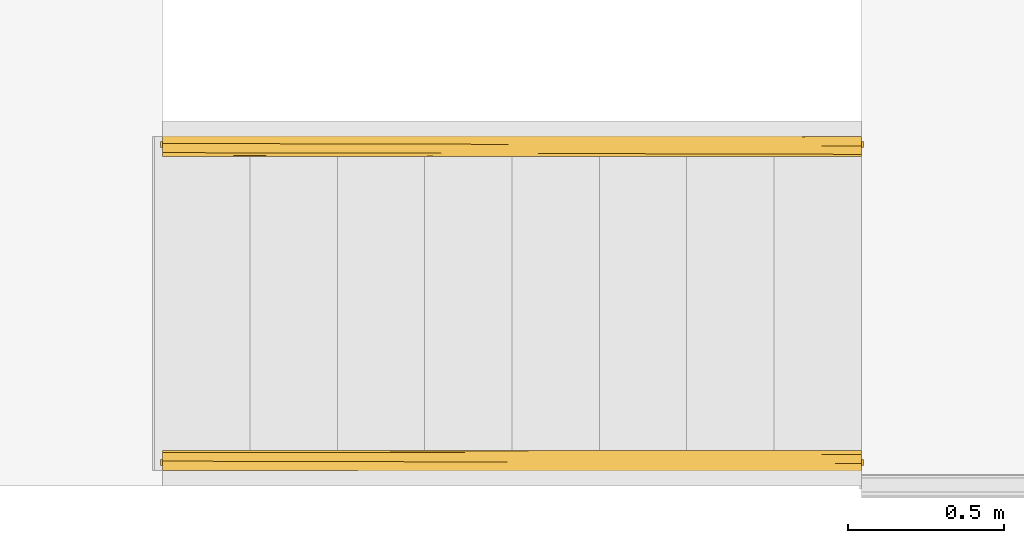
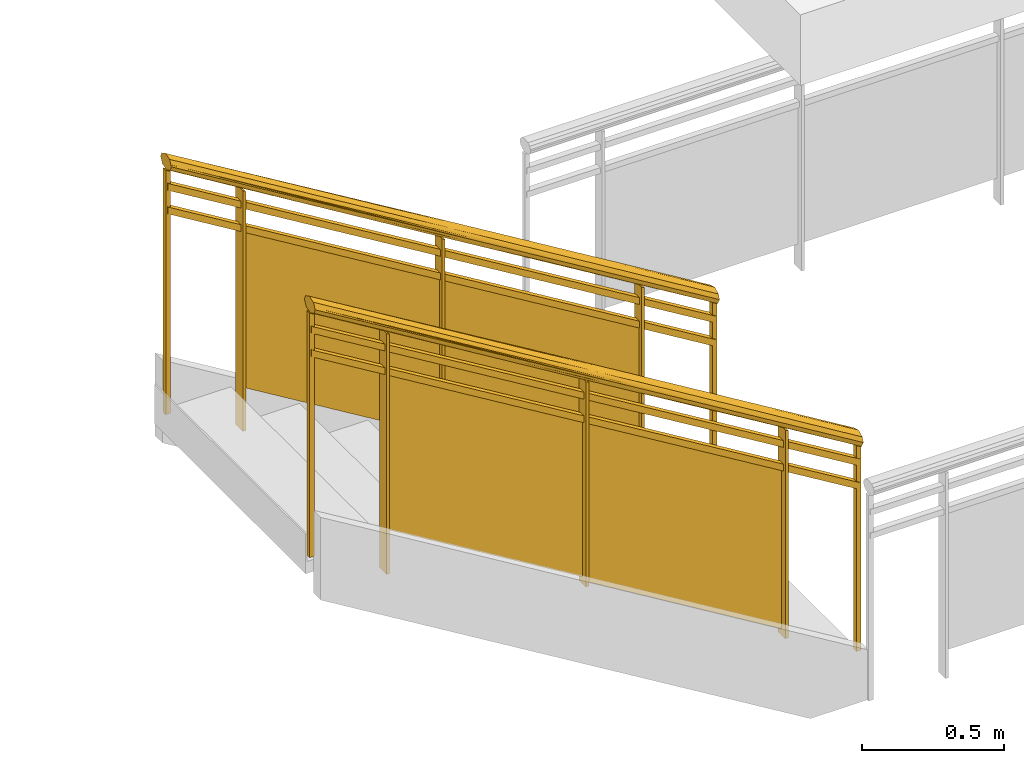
# One storey, part 3 of 4: 2 railings, 1 element without a shape of its own.
"""IFC2X3 building model written with IfcOpenShell, lengths in feet."""

from ifc_helpers import new_model, entity, si_unit, converted_unit, derived_unit, direction, frame, origin, place, context, subcontext, project, spatial, faceted_brep, material, material_list, element, aggregate, save


model = new_model("IFC2X3")

# Units and contexts
model_context = context("Model", 3, precision=0.0001, world=origin(), true_north=direction((6.12303176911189e-17, 1.0)))
body_context = subcontext(model_context, "Body", "Model", "MODEL_VIEW")
ifc_project = project(units=[converted_unit("LENGTHUNIT", "FOOT", entity("IfcRatioMeasure", 0.3048), si_unit("LENGTHUNIT", "METRE"), dimensions=[1, 0, 0, 0, 0, 0, 0]), converted_unit("AREAUNIT", "SQUARE FOOT", entity("IfcRatioMeasure", 0.09290304), si_unit("AREAUNIT", "SQUARE_METRE"), dimensions=[2, 0, 0, 0, 0, 0, 0]), converted_unit("VOLUMEUNIT", "CUBIC FOOT", entity("IfcRatioMeasure", 0.028316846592), si_unit("VOLUMEUNIT", "CUBIC_METRE"), dimensions=[3, 0, 0, 0, 0, 0, 0]), converted_unit("PLANEANGLEUNIT", "DEGREE", entity("IfcRatioMeasure", 0.0174532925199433), si_unit("PLANEANGLEUNIT", "RADIAN"), dimensions=[0, 0, 0, 0, 0, 0, 0]), si_unit("MASSUNIT", "GRAM", prefix="KILO"), derived_unit("MASSDENSITYUNIT", [(si_unit("MASSUNIT", "GRAM", prefix="KILO"), 1), (si_unit("LENGTHUNIT", "METRE"), -3)]), si_unit("TIMEUNIT", "SECOND"), si_unit("FREQUENCYUNIT", "HERTZ"), si_unit("THERMODYNAMICTEMPERATUREUNIT", "DEGREE_CELSIUS"), derived_unit("THERMALTRANSMITTANCEUNIT", [(si_unit("MASSUNIT", "GRAM", prefix="KILO"), 1), (si_unit("THERMODYNAMICTEMPERATUREUNIT", "KELVIN"), -1), (si_unit("TIMEUNIT", "SECOND"), -3)]), derived_unit("VOLUMETRICFLOWRATEUNIT", [(si_unit("LENGTHUNIT", "METRE"), 3), (si_unit("TIMEUNIT", "SECOND"), -1)]), si_unit("ELECTRICCURRENTUNIT", "AMPERE"), si_unit("ELECTRICVOLTAGEUNIT", "VOLT"), si_unit("POWERUNIT", "WATT"), si_unit("FORCEUNIT", "NEWTON"), si_unit("ILLUMINANCEUNIT", "LUX"), si_unit("LUMINOUSFLUXUNIT", "LUMEN"), si_unit("LUMINOUSINTENSITYUNIT", "CANDELA"), derived_unit("USERDEFINED", [(si_unit("MASSUNIT", "GRAM", prefix="KILO"), -1), (si_unit("LENGTHUNIT", "METRE"), -2), (si_unit("TIMEUNIT", "SECOND"), 3), (si_unit("LUMINOUSFLUXUNIT", "LUMEN"), 1)]), derived_unit("LINEARVELOCITYUNIT", [(si_unit("LENGTHUNIT", "METRE"), 1), (si_unit("TIMEUNIT", "SECOND"), -1)]), si_unit("PRESSUREUNIT", "PASCAL"), derived_unit("USERDEFINED", [(si_unit("LENGTHUNIT", "METRE"), -2), (si_unit("MASSUNIT", "GRAM", prefix="KILO"), 1), (si_unit("TIMEUNIT", "SECOND"), -2)])], contexts=[model_context])

# Site, building, storey
site_placement = place(None, origin())
site = spatial("IfcSite", under=ifc_project, at=site_placement, Name="Default", CompositionType="ELEMENT")
building_placement = place(site_placement, origin())
building = spatial("IfcBuilding", under=site, at=building_placement, CompositionType="ELEMENT")
storey_placement = place(building_placement, frame((0.0, 0.0, 45.0)))
storey = spatial("IfcBuildingStorey", under=building, at=storey_placement, Name="L 8", CompositionType="ELEMENT", Elevation=44.9999999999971)

# Stair, railings
stair_placement = place(storey_placement, origin())
stair = element("IfcStair", 1, at=stair_placement, inside=storey, Name="Assembled Stair:Stair", ObjectType="Assembled Stair:7\" max riser 11\" tread", ShapeType="NOTDEFINED")
ifc_material_1 = material(Name="Glass")
ifc_material_2 = material(Name="alum - color")
ifc_material_list_1 = material_list([ifc_material_1, ifc_material_2])
railing_1_placement = place(stair_placement, frame((-46.3459961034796, -11.8838750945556, 0.555555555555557)))
railing_1 = element("IfcRailing", 2, at=railing_1_placement, material=ifc_material_list_1, Name="Railing:Glass Panel - Bottom Fill", ObjectType="Railing:Glass Panel - Bottom Fill", PredefinedType="NOTDEFINED", context=body_context, shape_type="Brep", body=[
    faceted_brep([(1.04166666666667, 0.21356716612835, 6.71557302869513), (1.04166666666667, 0.0469004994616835, 6.71557302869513), (1.04166666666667, 0.0469004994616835, 3.33333333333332), (1.04166666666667, 0.21356716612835, 3.33333333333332), (1.0, 0.213567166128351, 6.74082555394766), (1.0, 0.213567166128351, 3.33333333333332), (1.0, 0.0469004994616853, 6.74082555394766), (1.0, 0.0469004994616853, 3.33333333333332)], [[[0, 1, 2, 3]], [[4, 0, 3, 5]], [[6, 4, 5, 7]], [[1, 6, 7, 2]], [[1, 0, 4, 6]], [[3, 2, 7, 5]]]),
    faceted_brep([(3.68750000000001, 0.10879302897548, 2.30303030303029), (3.68750000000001, 0.10879302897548, 4.50683388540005), (1.02083333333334, 0.108793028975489, 6.1229955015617), (1.02083333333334, 0.108793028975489, 3.91919191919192), (3.68750000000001, 0.129626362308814, 2.30303030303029), (1.02083333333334, 0.129626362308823, 3.91919191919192), (1.02083333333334, 0.129626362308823, 6.1229955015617), (3.68750000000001, 0.129626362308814, 4.50683388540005)], [[[0, 1, 2, 3]], [[4, 5, 6, 7]], [[1, 0, 4, 7]], [[2, 1, 7, 6]], [[3, 2, 6, 5]], [[0, 3, 5, 4]]]),
    faceted_brep([(3.70833333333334, 0.213567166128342, 5.09941141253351), (3.70833333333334, 0.0469004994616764, 5.09941141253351), (3.70833333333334, 0.0469004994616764, 2.22222222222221), (3.70833333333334, 0.213567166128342, 2.22222222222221), (3.66666666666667, 0.213567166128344, 5.12466393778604), (3.66666666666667, 0.213567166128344, 2.22222222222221), (3.66666666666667, 0.0469004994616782, 5.12466393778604), (3.66666666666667, 0.0469004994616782, 2.22222222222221)], [[[0, 1, 2, 3]], [[4, 0, 3, 5]], [[6, 4, 5, 7]], [[1, 6, 7, 2]], [[1, 0, 4, 6]], [[3, 2, 7, 5]]]),
    faceted_brep([(6.35416666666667, 0.108793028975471, 0.636363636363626), (6.35416666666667, 0.108793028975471, 2.89067226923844), (3.68750000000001, 0.10879302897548, 4.50683388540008), (3.68750000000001, 0.10879302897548, 2.25252525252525), (6.35416666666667, 0.129626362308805, 0.636363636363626), (3.68750000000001, 0.129626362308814, 2.25252525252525), (3.68750000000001, 0.129626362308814, 4.50683388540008), (6.35416666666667, 0.129626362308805, 2.89067226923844)], [[[0, 1, 2, 3]], [[4, 5, 6, 7]], [[1, 0, 4, 7]], [[2, 1, 7, 6]], [[3, 2, 6, 5]], [[0, 3, 5, 4]]]),
    faceted_brep([(6.37500000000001, 0.213567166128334, 3.4832497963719), (6.37500000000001, 0.0469004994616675, 3.4832497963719), (6.37500000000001, 0.0469004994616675, 0.55555555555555), (6.37500000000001, 0.213567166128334, 0.55555555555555), (6.33333333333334, 0.213567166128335, 3.50850232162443), (6.33333333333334, 0.213567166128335, 0.55555555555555), (6.33333333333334, 0.0469004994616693, 3.50850232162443), (6.33333333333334, 0.0469004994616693, 0.55555555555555)], [[[0, 1, 2, 3]], [[4, 0, 3, 5]], [[6, 4, 5, 7]], [[1, 6, 7, 2]], [[1, 0, 4, 6]], [[3, 2, 7, 5]]]),
    faceted_brep([(0.0625, 0.161483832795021, 7.30900737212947), (0.0625, 0.098983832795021, 7.30900737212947), (0.0625, 0.098983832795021, 3.88888888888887), (0.0625, 0.161483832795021, 3.88888888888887), (0.0, 0.161483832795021, 7.34688616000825), (0.0, 0.161483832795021, 3.88888888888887), (0.0, 0.098983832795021, 7.34688616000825), (0.0, 0.098983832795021, 3.88888888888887)], [[[0, 1, 2, 3]], [[4, 0, 3, 5]], [[6, 4, 5, 7]], [[1, 6, 7, 2]], [[1, 0, 4, 6]], [[3, 2, 7, 5]]]),
    faceted_brep([(7.37500000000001, 0.161483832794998, 2.8771891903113), (7.37500000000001, 0.0989838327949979, 2.8771891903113), (7.37500000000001, 0.0989838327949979, 0.0), (7.37500000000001, 0.161483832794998, 0.0), (7.31250000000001, 0.161483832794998, 2.91506797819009), (7.31250000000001, 0.161483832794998, 0.0), (7.31250000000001, 0.0989838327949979, 2.91506797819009), (7.31250000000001, 0.0989838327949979, 0.0)], [[[0, 1, 2, 3]], [[4, 0, 3, 5]], [[6, 4, 5, 7]], [[1, 6, 7, 2]], [[1, 0, 4, 6]], [[3, 2, 7, 5]]]),
    faceted_brep([(7.35416666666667, 0.171900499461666, 2.71538833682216), (7.35416666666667, 0.0885671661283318, 2.71538833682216), (7.35416666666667, 0.0885671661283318, 2.61794499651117), (7.35416666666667, 0.171900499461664, 2.61794499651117), (0.0208333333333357, 0.171900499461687, 7.15983278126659), (0.0208333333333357, 0.171900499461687, 7.0623894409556), (0.0208333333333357, 0.0885671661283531, 7.0623894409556), (0.0208333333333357, 0.0885671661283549, 7.15983278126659)], [[[0, 1, 2, 3]], [[4, 5, 6, 7]], [[1, 0, 4, 7]], [[2, 1, 7, 6]], [[3, 2, 6, 5]], [[0, 3, 5, 4]]]),
    faceted_brep([(7.35416666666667, 0.171900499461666, 2.38205500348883), (7.35416666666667, 0.0885671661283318, 2.38205500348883), (7.35416666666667, 0.0885671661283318, 2.28461166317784), (7.35416666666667, 0.171900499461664, 2.28461166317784), (0.0208333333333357, 0.171900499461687, 6.82649944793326), (0.0208333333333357, 0.171900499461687, 6.72905610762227), (0.0208333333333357, 0.0885671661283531, 6.72905610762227), (0.0208333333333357, 0.0885671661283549, 6.82649944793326)], [[[0, 1, 2, 3]], [[4, 5, 6, 7]], [[1, 0, 4, 7]], [[2, 1, 7, 6]], [[3, 2, 6, 5]], [[0, 3, 5, 4]]]),
    faceted_brep([(7.35416666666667, 0.213875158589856, 3.08146632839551), (7.35416666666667, 0.1655214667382, 3.09524477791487), (7.35416666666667, 0.117167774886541, 3.10902322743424), (7.35416666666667, 0.0731372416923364, 3.08672922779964), (7.35416666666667, 0.02910670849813, 3.06443522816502), (7.35416666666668, 0.0171702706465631, 3.03221761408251), (7.35416666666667, 0.00523383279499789, 3.0), (7.35416666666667, 0.025913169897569, 2.95926683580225), (7.35416666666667, 0.0465925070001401, 2.91853367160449), (7.35416666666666, 0.0949461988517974, 2.90475522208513), (7.35416666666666, 0.119123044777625, 2.89786599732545), (7.35416666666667, 0.143299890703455, 2.89097677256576), (7.35416666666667, 0.187330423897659, 2.91327077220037), (7.35416666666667, 0.231360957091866, 2.93556477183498), (7.35416666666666, 0.243297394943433, 2.96778238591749), (7.35416666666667, 0.255233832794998, 3.0), (7.35416666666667, 0.234554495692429, 3.04073316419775), (0.0208333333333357, 0.23455449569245, 7.40371128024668), (0.0208333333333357, 0.213875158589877, 7.36297811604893), (0.0208333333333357, 0.165521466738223, 7.34919966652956), (0.0208333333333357, 0.117167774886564, 7.33542121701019), (0.0208333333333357, 0.0731372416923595, 7.35771521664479), (0.0208333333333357, 0.0291067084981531, 7.3800092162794), (0.0208333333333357, 0.0171702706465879, 7.41222683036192), (0.0208333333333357, 0.00523383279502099, 7.44444444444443), (0.0208333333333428, 0.0160886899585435, 7.46582582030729), (0.0208333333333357, 0.0259131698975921, 7.48517760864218), (0.0208333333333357, 0.0465925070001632, 7.52591077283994), (0.0208333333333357, 0.0949461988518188, 7.5396892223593), (0.0208333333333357, 0.143299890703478, 7.55346767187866), (0.0208333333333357, 0.165315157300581, 7.54232067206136), (0.0208333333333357, 0.187330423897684, 7.53117367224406), (0.0208333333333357, 0.231360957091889, 7.50887967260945), (0.0208333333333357, 0.243297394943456, 7.47666205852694), (0.0208333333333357, 0.255233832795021, 7.44444444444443), (3.6747094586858, 0.0137122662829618, 5.19028869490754), (3.50252181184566, 0.0829558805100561, 5.23284993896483), (3.45921612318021, 0.0528675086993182, 5.27447257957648), (4.29628493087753, 0.0291542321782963, 4.78876910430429), (4.21551463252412, 0.00523383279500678, 4.90221335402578), (3.1594910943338, 0.00523383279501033, 5.54222761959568), (3.33385169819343, 0.197494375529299, 5.34415364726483), (4.14914124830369, 0.165864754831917, 4.83736380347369), (3.68570699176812, 0.130266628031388, 5.11368513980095), (3.64781981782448, 0.223695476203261, 5.17347577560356), (3.92848502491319, 0.242734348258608, 5.02838773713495), (4.21550339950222, 0.255233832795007, 4.90222016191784), (3.82716822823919, 0.248958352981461, 5.17187272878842), (4.04455402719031, 0.234486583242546, 5.06630868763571), (3.23018888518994, 0.211415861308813, 5.58273826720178), (3.68909777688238, 0.181027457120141, 5.32141906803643), (4.18350805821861, 0.00868237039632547, 4.94718335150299), (3.83159048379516, 0.133323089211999, 5.24448493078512), (3.94783373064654, 0.0988442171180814, 5.17055526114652), (3.77597728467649, 0.0386138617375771, 5.24317359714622), (3.99573411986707, 0.0188155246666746, 5.08510860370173), (3.11455551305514, 0.0671397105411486, 5.66409552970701)], [[[0, 1, 2, 3, 4, 5, 6, 7, 8, 9, 10, 11, 12, 13, 14, 15, 16]], [[17, 18, 19, 20, 21, 22, 23, 24, 25, 26, 27, 28, 29, 30, 31, 32, 33, 34]], [[35, 7, 6]], [[9, 8, 36, 10]], [[22, 37, 38]], [[37, 36, 8]], [[21, 36, 37]], [[35, 6, 39, 40]], [[41, 42, 19]], [[38, 7, 35]], [[19, 42, 43]], [[44, 41, 18]], [[13, 45, 14]], [[8, 38, 37]], [[44, 12, 41]], [[38, 8, 7]], [[11, 43, 42]], [[17, 34, 46]], [[35, 23, 22]], [[11, 10, 43]], [[40, 24, 23]], [[21, 37, 22]], [[36, 21, 20]], [[36, 20, 43]], [[36, 43, 10]], [[43, 20, 19]], [[42, 12, 11]], [[12, 42, 41]], [[13, 12, 44]], [[18, 41, 19]], [[46, 15, 14]], [[44, 18, 17]], [[17, 45, 44]], [[38, 35, 22]], [[45, 17, 46]], [[23, 35, 40]], [[44, 45, 13]], [[14, 45, 46]], [[16, 47, 48]], [[0, 48, 49]], [[49, 31, 50]], [[31, 30, 50]], [[51, 26, 25]], [[2, 52, 53]], [[54, 27, 26]], [[54, 55, 4]], [[26, 51, 55]], [[47, 16, 15]], [[54, 26, 55]], [[5, 4, 55]], [[25, 24, 40, 39]], [[56, 54, 3]], [[56, 3, 53]], [[50, 0, 49]], [[27, 54, 56]], [[51, 39, 6]], [[53, 52, 28]], [[54, 4, 3]], [[56, 28, 27]], [[28, 56, 53]], [[5, 55, 51]], [[29, 28, 52]], [[2, 53, 3]], [[30, 29, 52]], [[52, 2, 1]], [[1, 0, 50]], [[52, 50, 30]], [[1, 50, 52]], [[49, 32, 31]], [[32, 49, 48]], [[33, 48, 47]], [[16, 48, 0]], [[46, 34, 47, 15]], [[33, 32, 48]], [[33, 47, 34]], [[5, 51, 6]], [[39, 51, 25]]]),
])
ifc_material_list_2 = material_list([ifc_material_1, ifc_material_2])
railing_2_placement = place(stair_placement, frame((-46.3459961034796, -15.2172084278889, 0.555555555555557)))
railing_2 = element("IfcRailing", 3, at=railing_2_placement, material=ifc_material_list_2, Name="Railing:Glass Panel - Bottom Fill", ObjectType="Railing:Glass Panel - Bottom Fill", PredefinedType="NOTDEFINED", context=body_context, shape_type="Brep", body=[
    faceted_brep([(1.04166666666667, 0.0469004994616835, 6.71557302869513), (1.04166666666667, 0.0469004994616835, 3.33333333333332), (1.04166666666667, 0.213567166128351, 3.33333333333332), (1.04166666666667, 0.213567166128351, 6.71557302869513), (1.0, 0.0469004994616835, 6.74082555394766), (1.0, 0.0469004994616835, 3.33333333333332), (1.0, 0.213567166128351, 6.74082555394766), (1.0, 0.213567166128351, 3.33333333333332)], [[[0, 1, 2, 3]], [[4, 5, 1, 0]], [[6, 7, 5, 4]], [[3, 2, 7, 6]], [[3, 6, 4, 0]], [[1, 5, 7, 2]]]),
    faceted_brep([(3.68750000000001, 0.151674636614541, 2.30303030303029), (1.02083333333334, 0.151674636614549, 3.91919191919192), (1.02083333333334, 0.151674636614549, 6.1229955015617), (3.68750000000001, 0.151674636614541, 4.50683388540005), (3.68750000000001, 0.130841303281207, 2.30303030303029), (3.68750000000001, 0.130841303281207, 4.50683388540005), (1.02083333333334, 0.130841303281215, 6.1229955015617), (1.02083333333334, 0.130841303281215, 3.91919191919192)], [[[0, 1, 2, 3]], [[4, 5, 6, 7]], [[3, 5, 4, 0]], [[2, 6, 5, 3]], [[1, 7, 6, 2]], [[0, 4, 7, 1]]]),
    faceted_brep([(3.70833333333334, 0.0469004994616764, 5.09941141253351), (3.70833333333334, 0.0469004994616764, 2.22222222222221), (3.70833333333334, 0.213567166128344, 2.22222222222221), (3.70833333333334, 0.213567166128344, 5.09941141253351), (3.66666666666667, 0.0469004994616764, 5.12466393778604), (3.66666666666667, 0.0469004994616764, 2.22222222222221), (3.66666666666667, 0.213567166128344, 5.12466393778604), (3.66666666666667, 0.213567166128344, 2.22222222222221)], [[[0, 1, 2, 3]], [[4, 5, 1, 0]], [[6, 7, 5, 4]], [[3, 2, 7, 6]], [[3, 6, 4, 0]], [[1, 5, 7, 2]]]),
    faceted_brep([(6.35416666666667, 0.151674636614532, 0.636363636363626), (3.68750000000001, 0.151674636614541, 2.25252525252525), (3.68750000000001, 0.151674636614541, 4.50683388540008), (6.35416666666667, 0.151674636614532, 2.89067226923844), (6.35416666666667, 0.130841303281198, 0.636363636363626), (6.35416666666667, 0.130841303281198, 2.89067226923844), (3.68750000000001, 0.130841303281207, 4.50683388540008), (3.68750000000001, 0.130841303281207, 2.25252525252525)], [[[0, 1, 2, 3]], [[4, 5, 6, 7]], [[3, 5, 4, 0]], [[2, 6, 5, 3]], [[1, 7, 6, 2]], [[0, 4, 7, 1]]]),
    faceted_brep([(6.37500000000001, 0.0469004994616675, 3.4832497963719), (6.37500000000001, 0.0469004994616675, 0.55555555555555), (6.37500000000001, 0.213567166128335, 0.55555555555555), (6.37500000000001, 0.213567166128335, 3.4832497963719), (6.33333333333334, 0.0469004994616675, 3.50850232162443), (6.33333333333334, 0.0469004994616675, 0.55555555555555), (6.33333333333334, 0.213567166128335, 3.50850232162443), (6.33333333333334, 0.213567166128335, 0.55555555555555)], [[[0, 1, 2, 3]], [[4, 5, 1, 0]], [[6, 7, 5, 4]], [[3, 2, 7, 6]], [[3, 6, 4, 0]], [[1, 5, 7, 2]]]),
    faceted_brep([(0.0625, 0.098983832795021, 7.30900737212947), (0.0625, 0.098983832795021, 3.88888888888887), (0.0625, 0.161483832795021, 3.88888888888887), (0.0625, 0.161483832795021, 7.30900737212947), (0.0, 0.098983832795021, 7.34688616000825), (0.0, 0.098983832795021, 3.88888888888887), (0.0, 0.161483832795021, 7.34688616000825), (0.0, 0.161483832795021, 3.88888888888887)], [[[0, 1, 2, 3]], [[4, 5, 1, 0]], [[6, 7, 5, 4]], [[3, 2, 7, 6]], [[3, 6, 4, 0]], [[1, 5, 7, 2]]]),
    faceted_brep([(7.37500000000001, 0.0989838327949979, 2.8771891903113), (7.37500000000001, 0.0989838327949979, 0.0), (7.37500000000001, 0.161483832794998, 0.0), (7.37500000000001, 0.161483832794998, 2.8771891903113), (7.31250000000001, 0.0989838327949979, 2.91506797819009), (7.31250000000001, 0.0989838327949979, 0.0), (7.31250000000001, 0.161483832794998, 2.91506797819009), (7.31250000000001, 0.161483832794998, 0.0)], [[[0, 1, 2, 3]], [[4, 5, 1, 0]], [[6, 7, 5, 4]], [[3, 2, 7, 6]], [[3, 6, 4, 0]], [[1, 5, 7, 2]]]),
    faceted_brep([(7.35416666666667, 0.0885671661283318, 2.71538833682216), (7.35416666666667, 0.0885671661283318, 2.61794499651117), (7.35416666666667, 0.171900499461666, 2.61794499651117), (7.35416666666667, 0.171900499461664, 2.71538833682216), (0.0208333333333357, 0.0885671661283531, 7.15983278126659), (0.0208333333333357, 0.171900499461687, 7.15983278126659), (0.0208333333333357, 0.171900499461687, 7.0623894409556), (0.0208333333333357, 0.0885671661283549, 7.0623894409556)], [[[0, 1, 2, 3]], [[4, 5, 6, 7]], [[1, 0, 4, 7]], [[2, 1, 7, 6]], [[3, 2, 6, 5]], [[0, 3, 5, 4]]]),
    faceted_brep([(7.35416666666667, 0.0885671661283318, 2.38205500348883), (7.35416666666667, 0.0885671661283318, 2.28461166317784), (7.35416666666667, 0.171900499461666, 2.28461166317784), (7.35416666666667, 0.171900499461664, 2.38205500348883), (0.0208333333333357, 0.0885671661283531, 6.82649944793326), (0.0208333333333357, 0.171900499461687, 6.82649944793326), (0.0208333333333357, 0.171900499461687, 6.72905610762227), (0.0208333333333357, 0.0885671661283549, 6.72905610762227)], [[[0, 1, 2, 3]], [[4, 5, 6, 7]], [[1, 0, 4, 7]], [[2, 1, 7, 6]], [[3, 2, 6, 5]], [[0, 3, 5, 4]]]),
    faceted_brep([(7.35416666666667, 0.213875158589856, 3.08146632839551), (7.35416666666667, 0.165521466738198, 3.09524477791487), (7.35416666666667, 0.117167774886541, 3.10902322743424), (7.35416666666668, 0.0731372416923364, 3.08672922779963), (7.35416666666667, 0.02910670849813, 3.06443522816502), (7.35416666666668, 0.0171702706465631, 3.03221761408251), (7.35416666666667, 0.00523383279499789, 3.0), (7.35416666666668, 0.0259131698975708, 2.95926683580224), (7.35416666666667, 0.0465925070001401, 2.91853367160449), (7.35416666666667, 0.0949461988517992, 2.90475522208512), (7.35416666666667, 0.119123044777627, 2.89786599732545), (7.35416666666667, 0.143299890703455, 2.89097677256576), (7.35416666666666, 0.187330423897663, 2.91327077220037), (7.35416666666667, 0.231360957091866, 2.93556477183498), (7.35416666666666, 0.243297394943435, 2.96778238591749), (7.35416666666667, 0.255233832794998, 3.0), (7.35416666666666, 0.234554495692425, 3.04073316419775), (0.0208333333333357, 0.23455449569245, 7.40371128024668), (0.0208333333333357, 0.213875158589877, 7.36297811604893), (0.0208333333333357, 0.165521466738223, 7.34919966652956), (0.0208333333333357, 0.117167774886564, 7.33542121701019), (0.0208333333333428, 0.0731372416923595, 7.35771521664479), (0.0208333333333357, 0.0291067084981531, 7.3800092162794), (0.0208333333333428, 0.0171702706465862, 7.41222683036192), (0.0208333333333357, 0.00523383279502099, 7.44444444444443), (0.0208333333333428, 0.0160886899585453, 7.46582582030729), (0.0208333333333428, 0.0259131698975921, 7.48517760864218), (0.0208333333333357, 0.0465925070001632, 7.52591077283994), (0.0208333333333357, 0.0949461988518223, 7.5396892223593), (0.0208333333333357, 0.143299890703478, 7.55346767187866), (0.0208333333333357, 0.165315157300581, 7.54232067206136), (0.0208333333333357, 0.187330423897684, 7.53117367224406), (0.0208333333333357, 0.231360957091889, 7.50887967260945), (0.0208333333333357, 0.243297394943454, 7.47666205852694), (0.0208333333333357, 0.255233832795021, 7.44444444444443), (3.67470945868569, 0.0137122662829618, 5.1902886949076), (3.50252181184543, 0.0829558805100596, 5.23284993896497), (3.45921612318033, 0.0528675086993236, 5.27447257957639), (4.29628493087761, 0.029154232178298, 4.78876910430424), (4.21549814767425, 0.00523383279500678, 4.90222334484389), (3.1594910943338, 0.00523383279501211, 5.54222761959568), (3.33385169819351, 0.197494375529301, 5.34415364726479), (4.14914124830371, 0.165864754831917, 4.83736380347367), (3.68570699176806, 0.130266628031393, 5.11368513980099), (3.64781981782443, 0.223695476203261, 5.1734757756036), (3.92848502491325, 0.242734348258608, 5.02838773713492), (4.21549747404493, 0.255233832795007, 4.90222375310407), (3.8271682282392, 0.248958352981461, 5.17187272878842), (4.04455402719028, 0.234486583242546, 5.06630868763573), (3.23018888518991, 0.211415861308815, 5.58273826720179), (3.6890977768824, 0.181027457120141, 5.32141906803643), (4.18350805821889, 0.00868237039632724, 4.94718335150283), (3.8315904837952, 0.133323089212, 5.24448493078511), (3.94783373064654, 0.0988442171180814, 5.17055526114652), (3.77597728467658, 0.0386138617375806, 5.24317359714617), (3.995734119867, 0.0188155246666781, 5.08510860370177), (3.11455551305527, 0.0671397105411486, 5.66409552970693)], [[[0, 1, 2, 3, 4, 5, 6, 7, 8, 9, 10, 11, 12, 13, 14, 15, 16]], [[17, 18, 19, 20, 21, 22, 23, 24, 25, 26, 27, 28, 29, 30, 31, 32, 33, 34]], [[35, 7, 6]], [[9, 8, 36, 10]], [[22, 37, 38]], [[37, 36, 8]], [[21, 36, 37]], [[35, 6, 39, 40]], [[41, 42, 19]], [[38, 7, 35]], [[19, 42, 43]], [[44, 41, 18]], [[13, 45, 14]], [[8, 38, 37]], [[44, 12, 41]], [[38, 8, 7]], [[11, 43, 42]], [[17, 34, 46]], [[35, 23, 22]], [[11, 10, 43]], [[40, 24, 23]], [[21, 37, 22]], [[36, 21, 20]], [[36, 20, 43]], [[36, 43, 10]], [[43, 20, 19]], [[42, 12, 11]], [[12, 42, 41]], [[13, 12, 44]], [[18, 41, 19]], [[46, 15, 14]], [[44, 18, 17]], [[17, 45, 44]], [[38, 35, 22]], [[45, 17, 46]], [[23, 35, 40]], [[44, 45, 13]], [[14, 45, 46]], [[16, 47, 48]], [[0, 48, 49]], [[49, 31, 50]], [[31, 30, 50]], [[51, 26, 25]], [[2, 52, 53]], [[54, 27, 26]], [[54, 55, 4]], [[26, 51, 55]], [[47, 16, 15]], [[54, 26, 55]], [[5, 4, 55]], [[25, 24, 40, 39]], [[56, 54, 3]], [[56, 3, 53]], [[50, 0, 49]], [[27, 54, 56]], [[51, 39, 6]], [[53, 52, 28]], [[54, 4, 3]], [[56, 28, 27]], [[28, 56, 53]], [[5, 55, 51]], [[29, 28, 52]], [[2, 53, 3]], [[30, 29, 52]], [[52, 2, 1]], [[1, 0, 50]], [[52, 50, 30]], [[1, 50, 52]], [[49, 32, 31]], [[32, 49, 48]], [[33, 48, 47]], [[16, 48, 0]], [[46, 34, 47, 15]], [[33, 32, 48]], [[33, 47, 34]], [[5, 51, 6]], [[39, 51, 25]]]),
])
aggregate(stair, [railing_1, railing_2])

save(model, "model.ifc")
